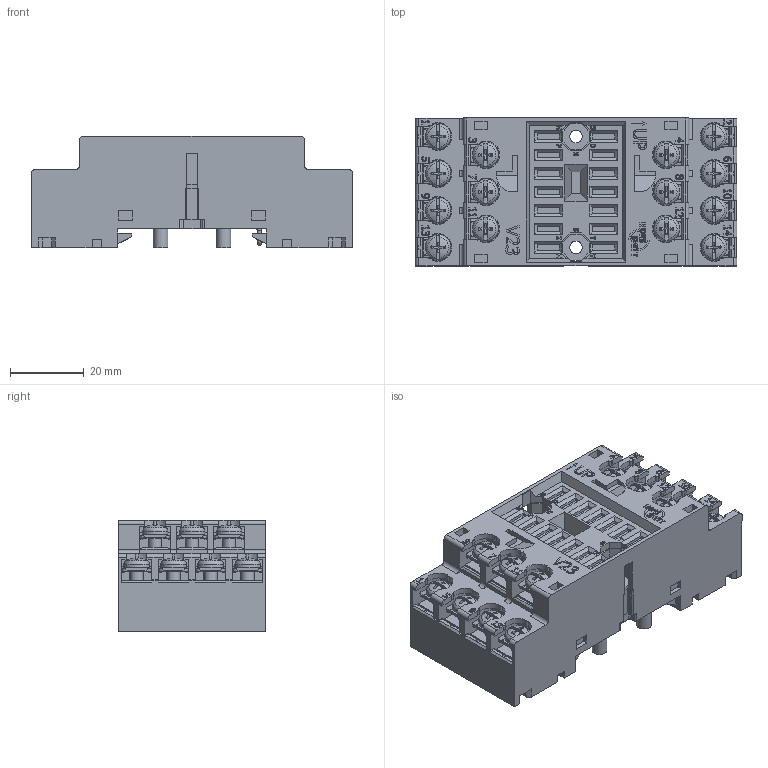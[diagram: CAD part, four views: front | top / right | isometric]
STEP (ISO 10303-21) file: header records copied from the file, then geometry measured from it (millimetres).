
FILE_DESCRIPTION(/* description */ (''),/* implementation_level */ '2;1');
FILE_NAME(/* name */ 'U:\M1 Attachments\CRs\CR1124 - Sales support\FU 153983 - 3D Model Step Files for Delta Enclosures\V23.stp',/* time_stamp */ '2023-06-27T15:06:31+10:00',/* author */ ('sarah.rady'),/* organization */ (''),/* preprocessor_version */ 'ST-DEVELOPER v19',/* originating_system */ 'Autodesk Inventor 2023',/* authorisation */ '');
FILE_SCHEMA (('AUTOMOTIVE_DESIGN { 1 0 10303 214 3 1 1 }'));
Products named in the file (1): V23 solid
Bounding box: 87 x 40 x 30.12 mm (x, y, z)
Volume: 74646.7 mm3; surface area: 25904.1 mm2
Topology: 1 solids, 1 shells, 3839 faces, 10416 edges, 6711 vertices
Faces by surface type: plane 2966, cylinder 330, bspline 305, cone 154, torus 56, sphere 28
Full cylindrical faces by diameter (mm): 1 x8, 2 x6, 3 x4, 3.175 x14, 3.4 x2, 3.5 x28, 4 x6
Entity records: 160765 total; most frequent: CARTESIAN_POINT 28470, ORIENTED_EDGE 20824, DIRECTION 17581, EDGE_CURVE 10412, LINE 8053, VECTOR 8053, VERTEX_POINT 6711, AXIS2_PLACEMENT_3D 4764
